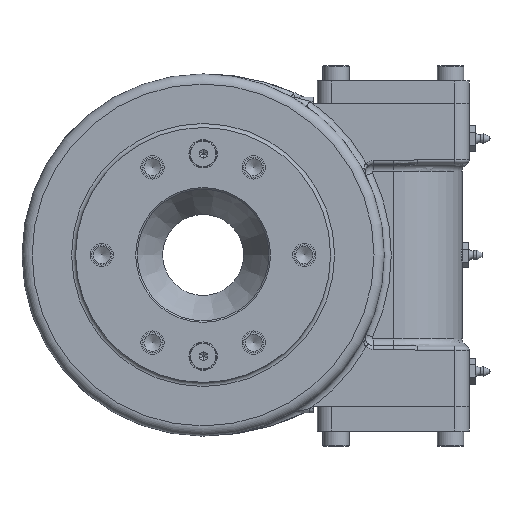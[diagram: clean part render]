
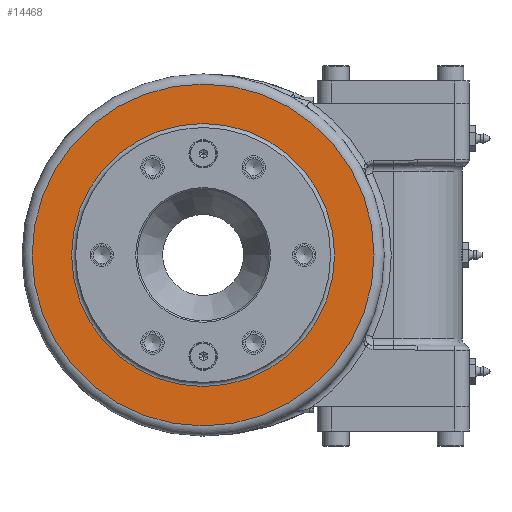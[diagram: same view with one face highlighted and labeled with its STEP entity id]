
A CAD part, left-side view. The second image highlights one B-rep face of the part: STEP entity #14468.
In plain terms, the highlighted planar face has unit normal (-1, 0, 0).
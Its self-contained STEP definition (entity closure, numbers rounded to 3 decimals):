
#4073 = VERTEX_POINT ( 'NONE', #4939 ) ;
#4939 = CARTESIAN_POINT ( 'NONE',  ( -55., 0., 84.5 ) ) ;
#4950 = DIRECTION ( 'NONE',  ( 1., 0., 0. ) ) ;
#5272 = ORIENTED_EDGE ( 'NONE', *, *, #30476, .T. ) ;
#5655 = FACE_BOUND ( 'NONE', #31055, .T. ) ;
#9437 = CARTESIAN_POINT ( 'NONE',  ( -55., 0., 0. ) ) ;
#9621 = ORIENTED_EDGE ( 'NONE', *, *, #42977, .T. ) ;
#9774 = DIRECTION ( 'NONE',  ( 0., 0., -1. ) ) ;
#12415 = CIRCLE ( 'NONE', #39163, 84.5 ) ;
#12867 = DIRECTION ( 'NONE',  ( 0., 0., -1. ) ) ;
#14468 = ADVANCED_FACE ( 'NONE', ( #5655, #23558 ), #30033, .F. ) ;
#18015 = CIRCLE ( 'NONE', #43578, 65. ) ;
#19575 = AXIS2_PLACEMENT_3D ( 'NONE', #26121, #34281, #9774 ) ;
#23558 = FACE_OUTER_BOUND ( 'NONE', #29652, .T. ) ;
#26121 = CARTESIAN_POINT ( 'NONE',  ( -55., 84.5, 0. ) ) ;
#28331 = DIRECTION ( 'NONE',  ( -1., 0., 0. ) ) ;
#29652 = EDGE_LOOP ( 'NONE', ( #5272 ) ) ;
#30033 = PLANE ( 'NONE',  #19575 ) ;
#30476 = EDGE_CURVE ( 'NONE', #4073, #4073, #12415, .T. ) ;
#31055 = EDGE_LOOP ( 'NONE', ( #9621 ) ) ;
#34281 = DIRECTION ( 'NONE',  ( 1., 0., 0. ) ) ;
#39163 = AXIS2_PLACEMENT_3D ( 'NONE', #44061, #28331, #48166 ) ;
#42460 = VERTEX_POINT ( 'NONE', #43743 ) ;
#42977 = EDGE_CURVE ( 'NONE', #42460, #42460, #18015, .T. ) ;
#43578 = AXIS2_PLACEMENT_3D ( 'NONE', #9437, #4950, #12867 ) ;
#43743 = CARTESIAN_POINT ( 'NONE',  ( -55., 0., -65. ) ) ;
#44061 = CARTESIAN_POINT ( 'NONE',  ( -55., 0., 0. ) ) ;
#48166 = DIRECTION ( 'NONE',  ( 0., 0., 1. ) ) ;
